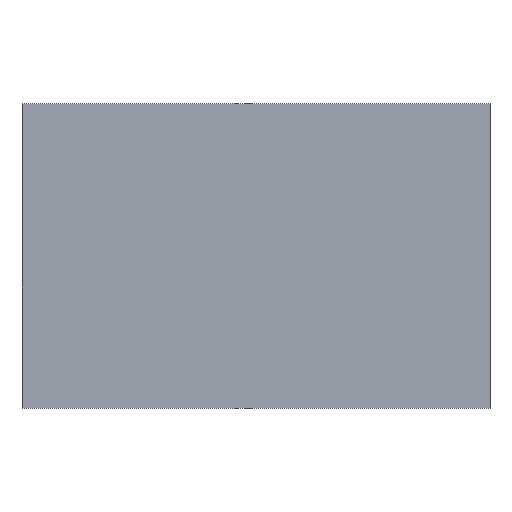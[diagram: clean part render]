
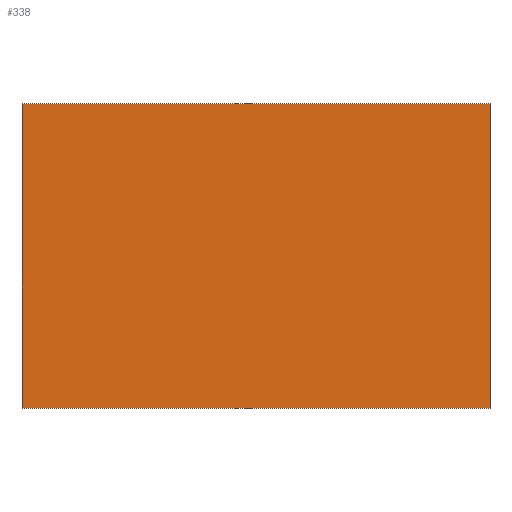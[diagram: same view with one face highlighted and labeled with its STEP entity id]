
A CAD part, top view. The second image highlights one B-rep face of the part: STEP entity #338.
In plain terms, the highlighted planar face has unit normal (0, 0, 1).
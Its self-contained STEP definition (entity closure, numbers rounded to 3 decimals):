
#24 = VERTEX_POINT('',#25);
#25 = CARTESIAN_POINT('',(-137.,-28.,80.));
#32 = PLANE('',#33);
#33 = AXIS2_PLACEMENT_3D('',#34,#35,#36);
#34 = CARTESIAN_POINT('',(-137.,-28.,64.));
#35 = DIRECTION('',(1.,0.,0.));
#36 = DIRECTION('',(0.,0.,1.));
#44 = PLANE('',#45);
#45 = AXIS2_PLACEMENT_3D('',#46,#47,#48);
#46 = CARTESIAN_POINT('',(-137.,-28.,64.));
#47 = DIRECTION('',(0.,1.,0.));
#48 = DIRECTION('',(0.,0.,1.));
#85 = VERTEX_POINT('',#86);
#86 = CARTESIAN_POINT('',(-137.,28.,80.));
#100 = PLANE('',#101);
#101 = AXIS2_PLACEMENT_3D('',#102,#103,#104);
#102 = CARTESIAN_POINT('',(-137.,28.,64.));
#103 = DIRECTION('',(0.,1.,0.));
#104 = DIRECTION('',(0.,0.,1.));
#112 = EDGE_CURVE('',#24,#85,#113,.T.);
#113 = SURFACE_CURVE('',#114,(#118,#125),.PCURVE_S1.);
#114 = LINE('',#115,#116);
#115 = CARTESIAN_POINT('',(-137.,-28.,80.));
#116 = VECTOR('',#117,1.);
#117 = DIRECTION('',(0.,1.,0.));
#118 = PCURVE('',#32,#119);
#119 = DEFINITIONAL_REPRESENTATION('',(#120),#124);
#120 = LINE('',#121,#122);
#121 = CARTESIAN_POINT('',(16.,0.));
#122 = VECTOR('',#123,1.);
#123 = DIRECTION('',(0.,-1.));
#124 = ( GEOMETRIC_REPRESENTATION_CONTEXT(2) 
PARAMETRIC_REPRESENTATION_CONTEXT() REPRESENTATION_CONTEXT('2D SPACE',''
  ) );
#125 = PCURVE('',#126,#131);
#126 = PLANE('',#127);
#127 = AXIS2_PLACEMENT_3D('',#128,#129,#130);
#128 = CARTESIAN_POINT('',(-137.,-28.,80.));
#129 = DIRECTION('',(0.,0.,1.));
#130 = DIRECTION('',(1.,0.,0.));
#131 = DEFINITIONAL_REPRESENTATION('',(#132),#136);
#132 = LINE('',#133,#134);
#133 = CARTESIAN_POINT('',(0.,0.));
#134 = VECTOR('',#135,1.);
#135 = DIRECTION('',(0.,1.));
#136 = ( GEOMETRIC_REPRESENTATION_CONTEXT(2) 
PARAMETRIC_REPRESENTATION_CONTEXT() REPRESENTATION_CONTEXT('2D SPACE',''
  ) );
#144 = VERTEX_POINT('',#145);
#145 = CARTESIAN_POINT('',(-51.,-28.,80.));
#152 = PLANE('',#153);
#153 = AXIS2_PLACEMENT_3D('',#154,#155,#156);
#154 = CARTESIAN_POINT('',(-51.,-28.,64.));
#155 = DIRECTION('',(1.,0.,0.));
#156 = DIRECTION('',(0.,0.,1.));
#195 = VERTEX_POINT('',#196);
#196 = CARTESIAN_POINT('',(-51.,28.,80.));
#217 = EDGE_CURVE('',#144,#195,#218,.T.);
#218 = SURFACE_CURVE('',#219,(#223,#230),.PCURVE_S1.);
#219 = LINE('',#220,#221);
#220 = CARTESIAN_POINT('',(-51.,-28.,80.));
#221 = VECTOR('',#222,1.);
#222 = DIRECTION('',(0.,1.,0.));
#223 = PCURVE('',#152,#224);
#224 = DEFINITIONAL_REPRESENTATION('',(#225),#229);
#225 = LINE('',#226,#227);
#226 = CARTESIAN_POINT('',(16.,0.));
#227 = VECTOR('',#228,1.);
#228 = DIRECTION('',(0.,-1.));
#229 = ( GEOMETRIC_REPRESENTATION_CONTEXT(2) 
PARAMETRIC_REPRESENTATION_CONTEXT() REPRESENTATION_CONTEXT('2D SPACE',''
  ) );
#230 = PCURVE('',#126,#231);
#231 = DEFINITIONAL_REPRESENTATION('',(#232),#236);
#232 = LINE('',#233,#234);
#233 = CARTESIAN_POINT('',(86.,0.));
#234 = VECTOR('',#235,1.);
#235 = DIRECTION('',(0.,1.));
#236 = ( GEOMETRIC_REPRESENTATION_CONTEXT(2) 
PARAMETRIC_REPRESENTATION_CONTEXT() REPRESENTATION_CONTEXT('2D SPACE',''
  ) );
#263 = EDGE_CURVE('',#24,#144,#264,.T.);
#264 = SURFACE_CURVE('',#265,(#269,#276),.PCURVE_S1.);
#265 = LINE('',#266,#267);
#266 = CARTESIAN_POINT('',(-137.,-28.,80.));
#267 = VECTOR('',#268,1.);
#268 = DIRECTION('',(1.,0.,0.));
#269 = PCURVE('',#44,#270);
#270 = DEFINITIONAL_REPRESENTATION('',(#271),#275);
#271 = LINE('',#272,#273);
#272 = CARTESIAN_POINT('',(16.,0.));
#273 = VECTOR('',#274,1.);
#274 = DIRECTION('',(0.,1.));
#275 = ( GEOMETRIC_REPRESENTATION_CONTEXT(2) 
PARAMETRIC_REPRESENTATION_CONTEXT() REPRESENTATION_CONTEXT('2D SPACE',''
  ) );
#276 = PCURVE('',#126,#277);
#277 = DEFINITIONAL_REPRESENTATION('',(#278),#282);
#278 = LINE('',#279,#280);
#279 = CARTESIAN_POINT('',(0.,0.));
#280 = VECTOR('',#281,1.);
#281 = DIRECTION('',(1.,0.));
#282 = ( GEOMETRIC_REPRESENTATION_CONTEXT(2) 
PARAMETRIC_REPRESENTATION_CONTEXT() REPRESENTATION_CONTEXT('2D SPACE',''
  ) );
#310 = EDGE_CURVE('',#85,#195,#311,.T.);
#311 = SURFACE_CURVE('',#312,(#316,#323),.PCURVE_S1.);
#312 = LINE('',#313,#314);
#313 = CARTESIAN_POINT('',(-137.,28.,80.));
#314 = VECTOR('',#315,1.);
#315 = DIRECTION('',(1.,0.,0.));
#316 = PCURVE('',#100,#317);
#317 = DEFINITIONAL_REPRESENTATION('',(#318),#322);
#318 = LINE('',#319,#320);
#319 = CARTESIAN_POINT('',(16.,0.));
#320 = VECTOR('',#321,1.);
#321 = DIRECTION('',(0.,1.));
#322 = ( GEOMETRIC_REPRESENTATION_CONTEXT(2) 
PARAMETRIC_REPRESENTATION_CONTEXT() REPRESENTATION_CONTEXT('2D SPACE',''
  ) );
#323 = PCURVE('',#126,#324);
#324 = DEFINITIONAL_REPRESENTATION('',(#325),#329);
#325 = LINE('',#326,#327);
#326 = CARTESIAN_POINT('',(0.,56.));
#327 = VECTOR('',#328,1.);
#328 = DIRECTION('',(1.,0.));
#329 = ( GEOMETRIC_REPRESENTATION_CONTEXT(2) 
PARAMETRIC_REPRESENTATION_CONTEXT() REPRESENTATION_CONTEXT('2D SPACE',''
  ) );
#338 = ADVANCED_FACE('',(#339),#126,.T.);
#339 = FACE_BOUND('',#340,.T.);
#340 = EDGE_LOOP('',(#341,#342,#343,#344));
#341 = ORIENTED_EDGE('',*,*,#112,.F.);
#342 = ORIENTED_EDGE('',*,*,#263,.T.);
#343 = ORIENTED_EDGE('',*,*,#217,.T.);
#344 = ORIENTED_EDGE('',*,*,#310,.F.);
